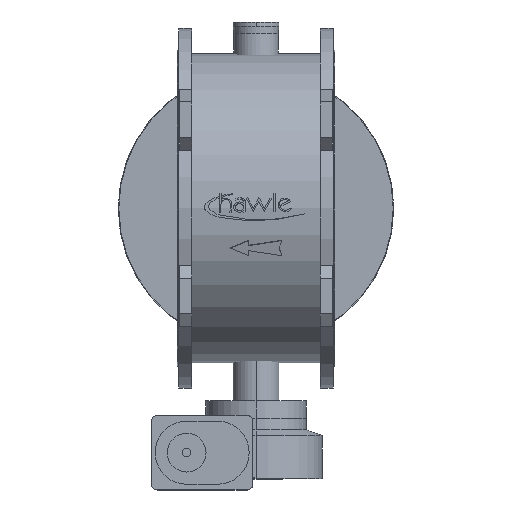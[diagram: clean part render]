
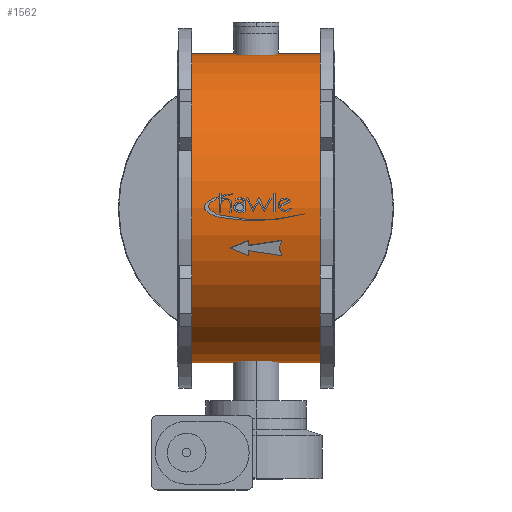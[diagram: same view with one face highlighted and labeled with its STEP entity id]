
A CAD part, top view. The second image highlights one B-rep face of the part: STEP entity #1562.
In plain terms, the highlighted cylindrical face has radius 540 mm (diameter 1080 mm), a partial arc.
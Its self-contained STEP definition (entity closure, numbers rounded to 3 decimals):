
#1562=ADVANCED_FACE('',(#3118),#3119,.T.);
#3118=FACE_OUTER_BOUND('',#4993,.T.);
#3119=CYLINDRICAL_SURFACE('',#4994,540.0);
#4993=EDGE_LOOP('',(#7966,#7967,#7968,#7969));
#4994=AXIS2_PLACEMENT_3D('',#7970,#7971,#7972);
#7966=ORIENTED_EDGE('',*,*,#10916,.T.);
#7967=ORIENTED_EDGE('',*,*,#10462,.T.);
#7968=ORIENTED_EDGE('',*,*,#10917,.T.);
#7969=ORIENTED_EDGE('',*,*,#10918,.T.);
#7970=CARTESIAN_POINT('',(-500.0,0.,0.0));
#7971=DIRECTION('',(1.0,0.,0.0));
#7972=DIRECTION('',(0.,-1.0,0.0));
#10462=EDGE_CURVE('',#12522,#12523,#12524,.T.);
#10916=EDGE_CURVE('',#13168,#12522,#13169,.T.);
#10917=EDGE_CURVE('',#12523,#13170,#13171,.T.);
#10918=EDGE_CURVE('',#13170,#13168,#13172,.T.);
#12522=VERTEX_POINT('',#15137);
#12523=VERTEX_POINT('',#15138);
#12524=CIRCLE('',#15139,540.0);
#13168=VERTEX_POINT('',#15926);
#13169=LINE('',#15927,#15928);
#13170=VERTEX_POINT('',#15929);
#13171=LINE('',#15930,#15931);
#13172=CIRCLE('',#15932,540.0);
#15137=CARTESIAN_POINT('',(-50.,-540.0,0.0));
#15138=CARTESIAN_POINT('',(-50.0,540.0,0.));
#15139=AXIS2_PLACEMENT_3D('',#17543,#17544,#17545);
#15926=CARTESIAN_POINT('',(-500.0,-540.0,0.0));
#15927=CARTESIAN_POINT('',(-500.0,-540.0,0.));
#15928=VECTOR('',#18265,1.0);
#15929=CARTESIAN_POINT('',(-500.0,540.0,0.));
#15930=CARTESIAN_POINT('',(-500.0,540.0,0.));
#15931=VECTOR('',#18266,1.0);
#15932=AXIS2_PLACEMENT_3D('',#18267,#18268,#18269);
#17543=CARTESIAN_POINT('',(-50.0,0.,0.0));
#17544=DIRECTION('',(-1.0,0.,0.0));
#17545=DIRECTION('',(0.,-1.0,0.0));
#18265=DIRECTION('',(1.0,0.,0.0));
#18266=DIRECTION('',(-1.0,0.,-0.0));
#18267=CARTESIAN_POINT('',(-500.0,0.,0.0));
#18268=DIRECTION('',(1.0,0.,0.0));
#18269=DIRECTION('',(0.,-1.0,0.0));
